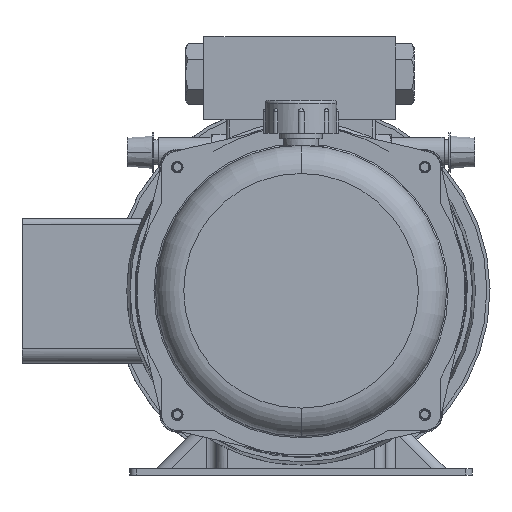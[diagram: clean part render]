
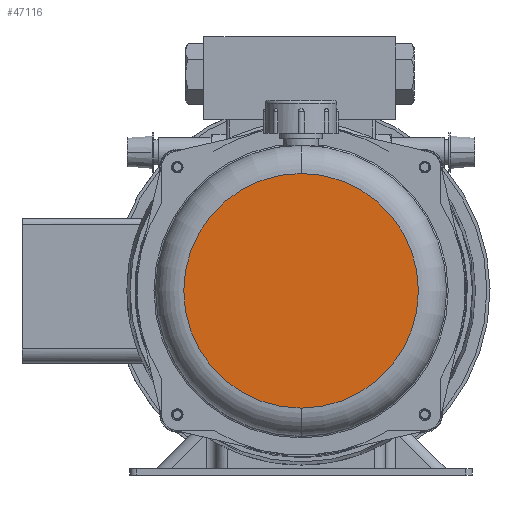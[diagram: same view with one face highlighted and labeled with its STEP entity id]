
A CAD part, front view. The second image highlights one B-rep face of the part: STEP entity #47116.
In plain terms, the highlighted planar face has unit normal (0, -1, 0).
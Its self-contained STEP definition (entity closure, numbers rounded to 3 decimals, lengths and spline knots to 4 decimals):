
#46557=CARTESIAN_POINT('',(0.,-13.067,0.));
#46558=DIRECTION('',(0.,-1.,0.));
#46559=DIRECTION('',(0.,0.,1.));
#46560=AXIS2_PLACEMENT_3D('',#46557,#46558,#46559);
#46577=CARTESIAN_POINT('',(0.,-13.067,0.));
#46578=DIRECTION('',(0.,1.,0.));
#46579=DIRECTION('',(0.,0.,1.));
#46580=AXIS2_PLACEMENT_3D('',#46577,#46578,#46579);
#46969=CARTESIAN_POINT('',(0.,-13.067,2.2275));
#46971=VERTEX_POINT('',#46969);
#46977=CARTESIAN_POINT('',(0.,-13.067,-2.2275));
#46978=VERTEX_POINT('',#46977);
#47105=CARTESIAN_POINT('',(0.,-13.067,0.));
#47106=DIRECTION('',(0.,-1.,0.));
#47107=DIRECTION('',(0.,0.,-1.));
#47108=AXIS2_PLACEMENT_3D('',#47105,#47106,#47107);
#47109=PLANE('',#47108);
#47111=ORIENTED_EDGE('',*,*,#47110,.F.);
#47113=ORIENTED_EDGE('',*,*,#47112,.T.);
#47114=EDGE_LOOP('',(#47111,#47113));
#47115=FACE_OUTER_BOUND('',#47114,.F.);
#47116=ADVANCED_FACE('',(#47115),#47109,.T.);
#46561=CIRCLE('',#46560,2.2275);
#46581=CIRCLE('',#46580,2.2275);
#47110=EDGE_CURVE('',#46971,#46978,#46561,.T.);
#47112=EDGE_CURVE('',#46971,#46978,#46581,.T.);
